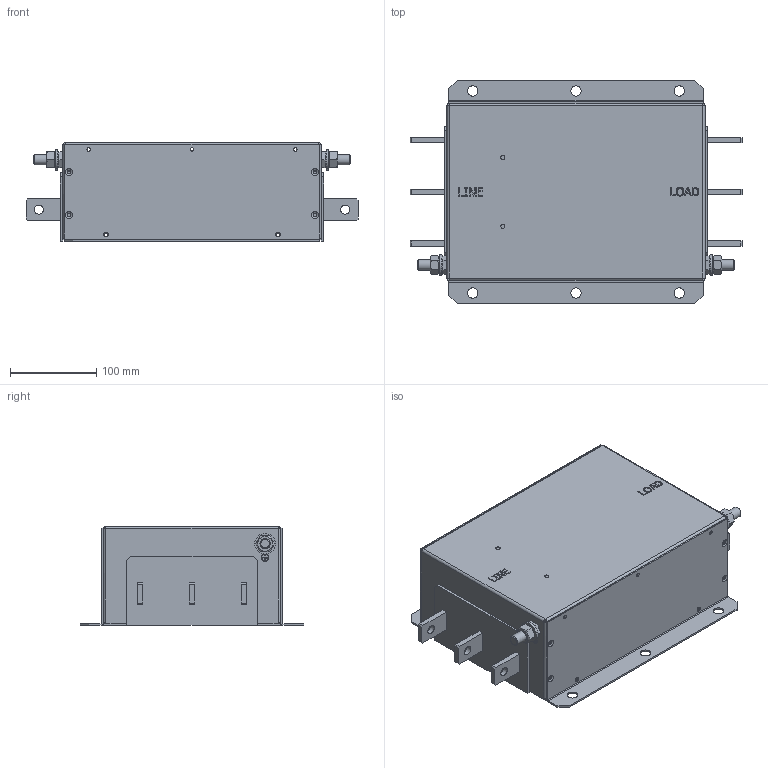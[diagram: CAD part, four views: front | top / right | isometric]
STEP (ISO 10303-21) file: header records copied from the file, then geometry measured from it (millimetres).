
FILE_DESCRIPTION((''),'2;1');
FILE_NAME('L:\INVENTOR_Projektedaten\HousingDesign\FN3359-320.400-99.stp','2013-02-27T13:17:50',('Samuel.Meier'),(''),'Autodesk Inventor 2013','Autodesk Inventor 2013','');
FILE_SCHEMA(('AUTOMOTIVE_DESIGN { 1 0 10303 214 1 1 1 1 }'));
Length unit declared in the file: millimetre
Products named in the file (1): FN3359-320.400-99
Bounding box: 386 x 260 x 115 mm (x, y, z)
Volume: 745217.7 mm3; surface area: 601994 mm2
Topology: 8 solids, 8 shells, 1024 faces, 2689 edges, 1728 vertices
Faces by surface type: plane 610, cylinder 352, cone 32, bspline 30
Full cylindrical faces by diameter (mm): 4.1 x18, 4.11 x8, 4.3 x6, 4.82 x2, 5.5 x4, 8 x2, 9 x2, 10.5 x6, 12 x14, 13 x4, 16.63 x2, 24 x4
Entity records: 32564 total; most frequent: CARTESIAN_POINT 6226, DIRECTION 5269, ORIENTED_EDGE 5178, EDGE_CURVE 2589, AXIS2_PLACEMENT_3D 1845, VERTEX_POINT 1720, VECTOR 1579, LINE 1579
